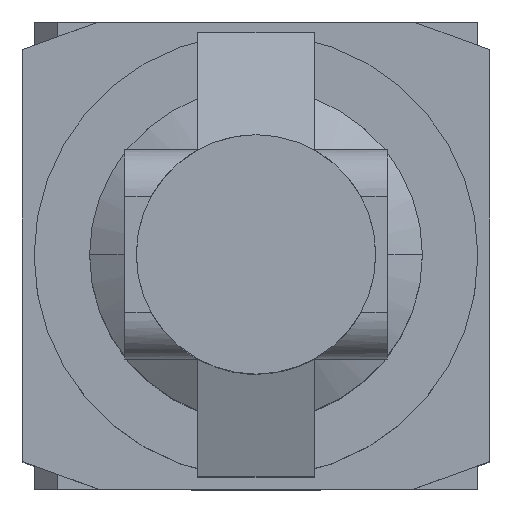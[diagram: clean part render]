
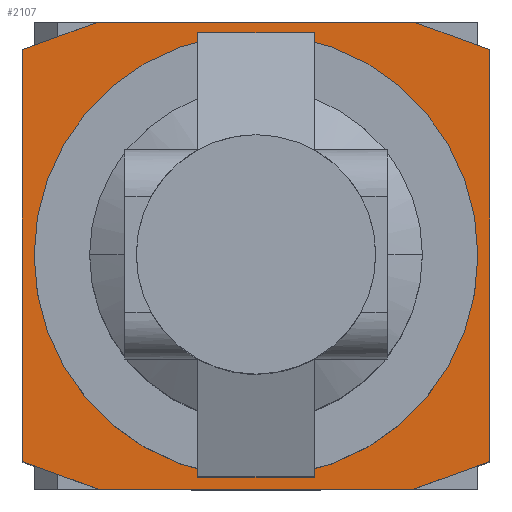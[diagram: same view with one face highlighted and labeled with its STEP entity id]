
A CAD part, top view. The second image highlights one B-rep face of the part: STEP entity #2107.
In plain terms, the highlighted planar face has unit normal (0, 0, 1).
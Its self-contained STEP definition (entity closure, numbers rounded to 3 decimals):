
#1559=CARTESIAN_POINT('',(-19.0,0.,34.0));
#1560=VERTEX_POINT('',#1559);
#1569=CARTESIAN_POINT('',(19.0,0.,34.0));
#1570=VERTEX_POINT('',#1569);
#1571=CARTESIAN_POINT('',(0.0,0.0,34.0));
#1572=DIRECTION('',(0.0,0.0,-1.0));
#1573=DIRECTION('',(-1.0,0.0,0.0));
#1574=AXIS2_PLACEMENT_3D('',#1571,#1572,#1573);
#1575=CIRCLE('',#1574,19.0);
#1576=EDGE_CURVE('',#1570,#1560,#1575,.T.);
#2026=CARTESIAN_POINT('',(0.,0.,34.0));
#2027=DIRECTION('',(0.0,0.0,1.0));
#2028=DIRECTION('',(1.0,0.0,0.0));
#2029=AXIS2_PLACEMENT_3D('',#2026,#2027,#2028);
#2030=PLANE('',#2029);
#2031=CARTESIAN_POINT('',(-13.5,-20.0,34.0));
#2032=VERTEX_POINT('',#2031);
#2033=CARTESIAN_POINT('',(-20.0,-17.634,34.0));
#2034=VERTEX_POINT('',#2033);
#2035=CARTESIAN_POINT('',(-13.5,-20.0,34.0));
#2036=DIRECTION('',(-0.94,0.342,0.0));
#2037=VECTOR('',#2036,6.917);
#2038=LINE('',#2035,#2037);
#2039=EDGE_CURVE('',#2032,#2034,#2038,.T.);
#2040=ORIENTED_EDGE('',*,*,#2039,.F.);
#2041=CARTESIAN_POINT('',(13.5,-20.0,34.0));
#2042=VERTEX_POINT('',#2041);
#2043=CARTESIAN_POINT('',(13.5,-20.0,34.0));
#2044=DIRECTION('',(-1.0,0.0,0.0));
#2045=VECTOR('',#2044,27.);
#2046=LINE('',#2043,#2045);
#2047=EDGE_CURVE('',#2042,#2032,#2046,.T.);
#2048=ORIENTED_EDGE('',*,*,#2047,.F.);
#2049=CARTESIAN_POINT('',(20.0,-17.634,34.0));
#2050=VERTEX_POINT('',#2049);
#2051=CARTESIAN_POINT('',(20.0,-17.634,34.0));
#2052=DIRECTION('',(-0.94,-0.342,0.0));
#2053=VECTOR('',#2052,6.917);
#2054=LINE('',#2051,#2053);
#2055=EDGE_CURVE('',#2050,#2042,#2054,.T.);
#2056=ORIENTED_EDGE('',*,*,#2055,.F.);
#2057=CARTESIAN_POINT('',(20.0,17.634,34.0));
#2058=VERTEX_POINT('',#2057);
#2059=CARTESIAN_POINT('',(20.0,17.634,34.0));
#2060=DIRECTION('',(0.0,-1.0,0.0));
#2061=VECTOR('',#2060,35.268);
#2062=LINE('',#2059,#2061);
#2063=EDGE_CURVE('',#2058,#2050,#2062,.T.);
#2064=ORIENTED_EDGE('',*,*,#2063,.F.);
#2065=CARTESIAN_POINT('',(13.5,20.0,34.0));
#2066=VERTEX_POINT('',#2065);
#2067=CARTESIAN_POINT('',(13.5,20.0,34.0));
#2068=DIRECTION('',(0.94,-0.342,0.0));
#2069=VECTOR('',#2068,6.917);
#2070=LINE('',#2067,#2069);
#2071=EDGE_CURVE('',#2066,#2058,#2070,.T.);
#2072=ORIENTED_EDGE('',*,*,#2071,.F.);
#2073=CARTESIAN_POINT('',(-13.5,20.0,34.0));
#2074=VERTEX_POINT('',#2073);
#2075=CARTESIAN_POINT('',(-13.5,20.0,34.0));
#2076=DIRECTION('',(1.0,0.0,0.0));
#2077=VECTOR('',#2076,27.);
#2078=LINE('',#2075,#2077);
#2079=EDGE_CURVE('',#2074,#2066,#2078,.T.);
#2080=ORIENTED_EDGE('',*,*,#2079,.F.);
#2081=CARTESIAN_POINT('',(-20.0,17.634,34.0));
#2082=VERTEX_POINT('',#2081);
#2083=CARTESIAN_POINT('',(-20.0,17.634,34.0));
#2084=DIRECTION('',(0.94,0.342,0.0));
#2085=VECTOR('',#2084,6.917);
#2086=LINE('',#2083,#2085);
#2087=EDGE_CURVE('',#2082,#2074,#2086,.T.);
#2088=ORIENTED_EDGE('',*,*,#2087,.F.);
#2089=CARTESIAN_POINT('',(-20.0,-17.634,34.0));
#2090=DIRECTION('',(0.0,1.0,0.0));
#2091=VECTOR('',#2090,35.268);
#2092=LINE('',#2089,#2091);
#2093=EDGE_CURVE('',#2034,#2082,#2092,.T.);
#2094=ORIENTED_EDGE('',*,*,#2093,.F.);
#2095=EDGE_LOOP('',(#2040,#2048,#2056,#2064,#2072,#2080,#2088,#2094));
#2096=FACE_OUTER_BOUND('',#2095,.T.);
#2097=ORIENTED_EDGE('',*,*,#1576,.T.);
#2098=CARTESIAN_POINT('',(0.0,0.0,34.0));
#2099=DIRECTION('',(0.0,0.0,-1.0));
#2100=DIRECTION('',(-1.0,0.0,0.0));
#2101=AXIS2_PLACEMENT_3D('',#2098,#2099,#2100);
#2102=CIRCLE('',#2101,19.0);
#2103=EDGE_CURVE('',#1560,#1570,#2102,.T.);
#2104=ORIENTED_EDGE('',*,*,#2103,.T.);
#2105=EDGE_LOOP('',(#2097,#2104));
#2106=FACE_BOUND('',#2105,.T.);
#2107=ADVANCED_FACE('',(#2096,#2106),#2030,.T.);
